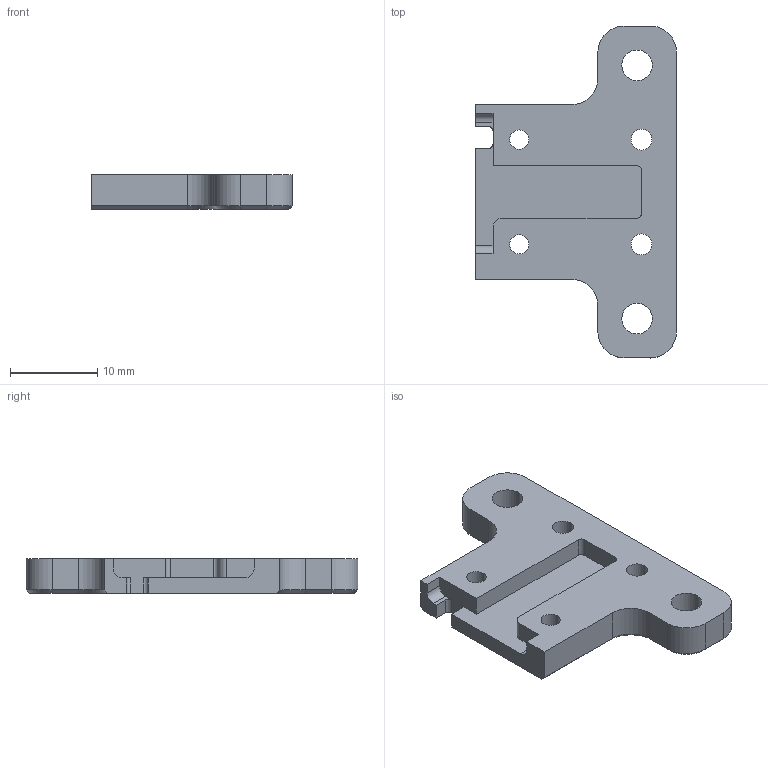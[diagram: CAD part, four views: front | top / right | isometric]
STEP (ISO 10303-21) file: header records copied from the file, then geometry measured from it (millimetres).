
FILE_DESCRIPTION((''),'2;1');
FILE_NAME('0006_7_GGG','2025-04-09T12:15:22',('Administrator'),(''),'CREO PARAMETRIC BY PTC INC, 2024063','CREO PARAMETRIC BY PTC INC, 2024063','');
FILE_SCHEMA(('CONFIG_CONTROL_DESIGN'));
Length unit declared in the file: millimetre
Products named in the file (1): 0006_7_GGG
Bounding box: 23 x 38 x 4 mm (x, y, z)
Volume: 1917.4 mm3; surface area: 1917.6 mm2
Topology: 1 solids, 1 shells, 84 faces, 210 edges, 132 vertices
Faces by surface type: plane 33, cylinder 33, cone 18
Entity records: 2568 total; most frequent: DIRECTION 462, CARTESIAN_POINT 426, ORIENTED_EDGE 420, EDGE_CURVE 210, AXIS2_PLACEMENT_3D 168, VERTEX_POINT 132, VECTOR 126, LINE 126
